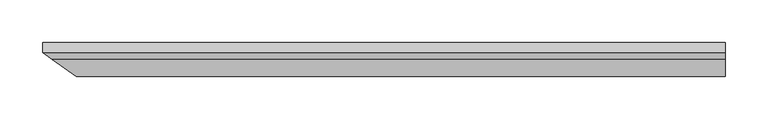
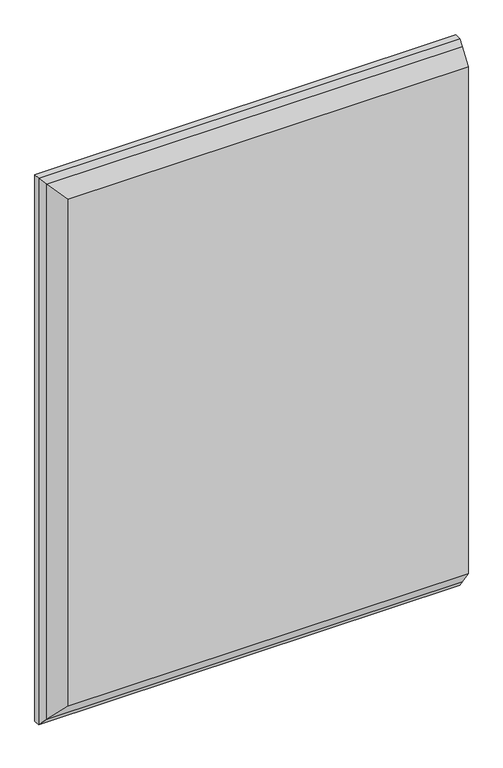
"""IFC4 building model written with IfcOpenShell, lengths in millimetres: proxy geometry, MK-TA24-STON-9T1-WD."""

from ifc_helpers import new_model, si_unit, origin, place, context, project, spatial, faceted_brep, source, transform, mapped, element, save


def generic_models_1af95a07(model_context):
    return source(origin(), model_context, "Body", "Brep", [
        faceted_brep([(-1297.5, 730.0, 538.6739954), (-1297.5, 730.0, -538.6739954), (-2088.6739954, 730.0, -538.6739954), (-2088.6739954, 730.0, 538.6739954), (-2060.3589838, 710.0, -510.3589838), (-1297.5, 710.0, -510.3589838), (-2060.3589838, 710.0, 510.3589838), (-1297.5, 710.0, 510.3589838)], [[[0, 1, 2, 3]], [[4, 2, 1, 5]], [[6, 3, 2, 4]], [[7, 0, 3, 6]], [[5, 7, 6, 4]], [[1, 0, 7, 5]]]),
        faceted_brep([(-2100.0, 738.0, -550.0), (-2100.0, 738.0, 550.0), (-2100.0, 750.0, 550.0), (-2100.0, 750.0, -550.0), (-1297.5, 738.0, 550.0), (-1297.5, 750.0, 550.0), (-1297.5, 738.0, -550.0), (-1297.5, 750.0, -550.0), (-2088.6739954, 730.0, -538.6739954), (-2088.6739954, 730.0, 538.6739954), (-1297.5, 730.0, 538.6739954), (-1297.5, 730.0, -538.6739954)], [[[0, 1, 2, 3]], [[2, 1, 4, 5]], [[6, 0, 3, 7]], [[1, 0, 8, 9]], [[3, 2, 5, 7]], [[1, 9, 10, 4]], [[0, 6, 11, 8]], [[11, 6, 7, 5, 4, 10]], [[8, 11, 10, 9]]]),
    ])


if __name__ == "__main__":
    model = new_model("IFC4")
    model_context = context("Model", 3, world=origin())
    ifc_project = project(units=[si_unit("LENGTHUNIT", "METRE", prefix="MILLI")], contexts=[model_context])
    site = spatial("IfcSite", under=ifc_project)
    building = spatial("IfcBuilding", under=site)
    placement = place(None, origin())
    generic_models_shape = generic_models_1af95a07(model_context)
    element("IfcBuildingElementProxy", 1, Name="MK-TA24-STON-9T1-WD", ObjectType="MK-TA24-STON-9T1-WD", at=placement, inside=building, context=model_context, shape_type="MappedRepresentation", body=[
        mapped(generic_models_shape, transform((0.0, 0.0, 0.0), x_axis=(1.0, 0.0, 0.0), y_axis=(0.0, 1.0, 0.0), z_axis=(0.0, 0.0, 1.0))),
    ])
    save(model, "model.ifc")
